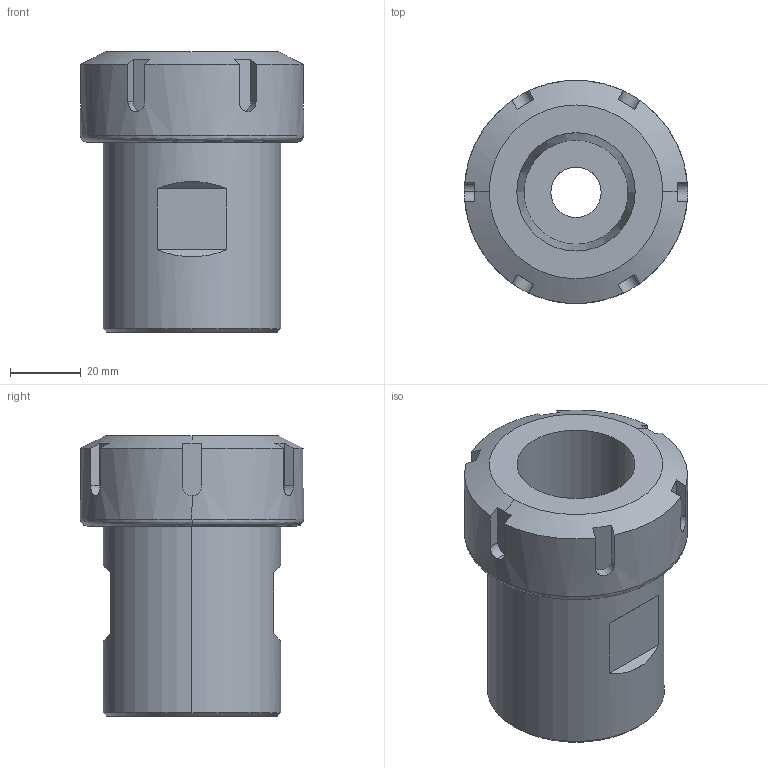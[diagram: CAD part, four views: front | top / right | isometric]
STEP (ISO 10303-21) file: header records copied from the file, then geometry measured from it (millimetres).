
FILE_DESCRIPTION (( 'STEP AP203' ), '1' );
FILE_NAME ('040J000110 Collet chuck ER40 JT2 14-30 mm.STEP', '2009-09-03T13:20:17', ( 'HP' ), ( '' ), 'SwSTEP 2.0', 'SolidWorks 2008', '' );
FILE_SCHEMA (( 'CONFIG_CONTROL_DESIGN' ));
Length unit declared in the file: millimetre
Products named in the file (1): 040J000110 Collet chuck ER40 JT2 14-30 mm
Bounding box: 63 x 63 x 79 mm (x, y, z)
Volume: 118780.9 mm3; surface area: 26781.2 mm2
Topology: 1 solids, 1 shells, 56 faces, 144 edges, 95 vertices
Faces by surface type: plane 33, cylinder 15, cone 6, bspline 2
Entity records: 2212 total; most frequent: CARTESIAN_POINT 812, ORIENTED_EDGE 288, DIRECTION 259, EDGE_CURVE 144, AXIS2_PLACEMENT_3D 98, VERTEX_POINT 95, VECTOR 63, LINE 63
